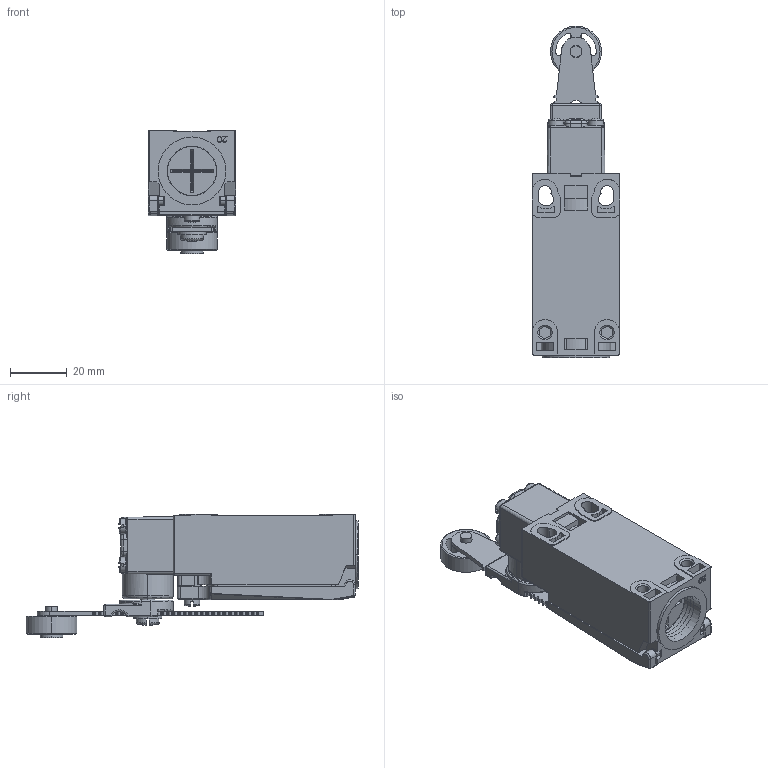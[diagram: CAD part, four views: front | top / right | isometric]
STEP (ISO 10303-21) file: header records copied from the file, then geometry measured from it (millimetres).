
FILE_DESCRIPTION(/* description */ (''),/* implementation_level */ '2;1');
FILE_NAME(/* name */ 'ALS3-P...C5.stp',/* time_stamp */ '2022-04-21T15:35:55+08:00',/* author */ (''),/* organization */ (''),/* preprocessor_version */ 'ST-DEVELOPER v16.7',/* originating_system */ 'SIEMENS PLM Software NX 12.0',/* authorisation */ '');
FILE_SCHEMA (('AUTOMOTIVE_DESIGN { 1 0 10303 214 3 1 1 1 }'));
Products named in the file (14): TZ-8轮子铆钉; TZ-8钢轮; 412G可调推杆; M5X13螺钉; M3X22螺钉; 4122摆杆套; 4120头部基座; M3X9; 20210810COVER_BODY; 基座; 尾塞; 412M轮子组件; 412M头部组件; ALS3-P...C5_stp
Assembly tree (16 placements, depth 4):
  ALS3-P...C5_stp
    尾塞
    基座
    20210810COVER_BODY
    M3X9
    412M头部组件
      4120头部基座
      4122摆杆套
      M3X22螺钉  x4
      412M轮子组件
        412G可调推杆
        TZ-8钢轮
        TZ-8轮子铆钉
      M5X13螺钉
Bounding box: 31 x 117.18 x 43.45 mm (x, y, z)
Volume: 31713.5 mm3; surface area: 34539.9 mm2
Topology: 14 solids, 14 shells, 2072 faces, 5884 edges, 3872 vertices
Faces by surface type: plane 1076, cylinder 709, cone 113, torus 80, bspline 56, sphere 38
Entity records: 70741 total; most frequent: CARTESIAN_POINT 18422, ORIENTED_EDGE 11202, DIRECTION 10749, EDGE_CURVE 5601, AXIS2_PLACEMENT_3D 3737, VERTEX_POINT 3710, LINE 3275, VECTOR 3275
